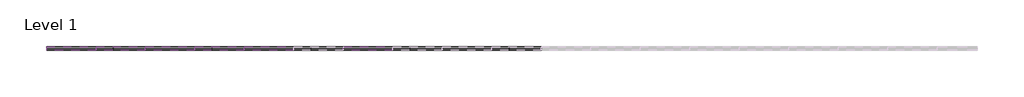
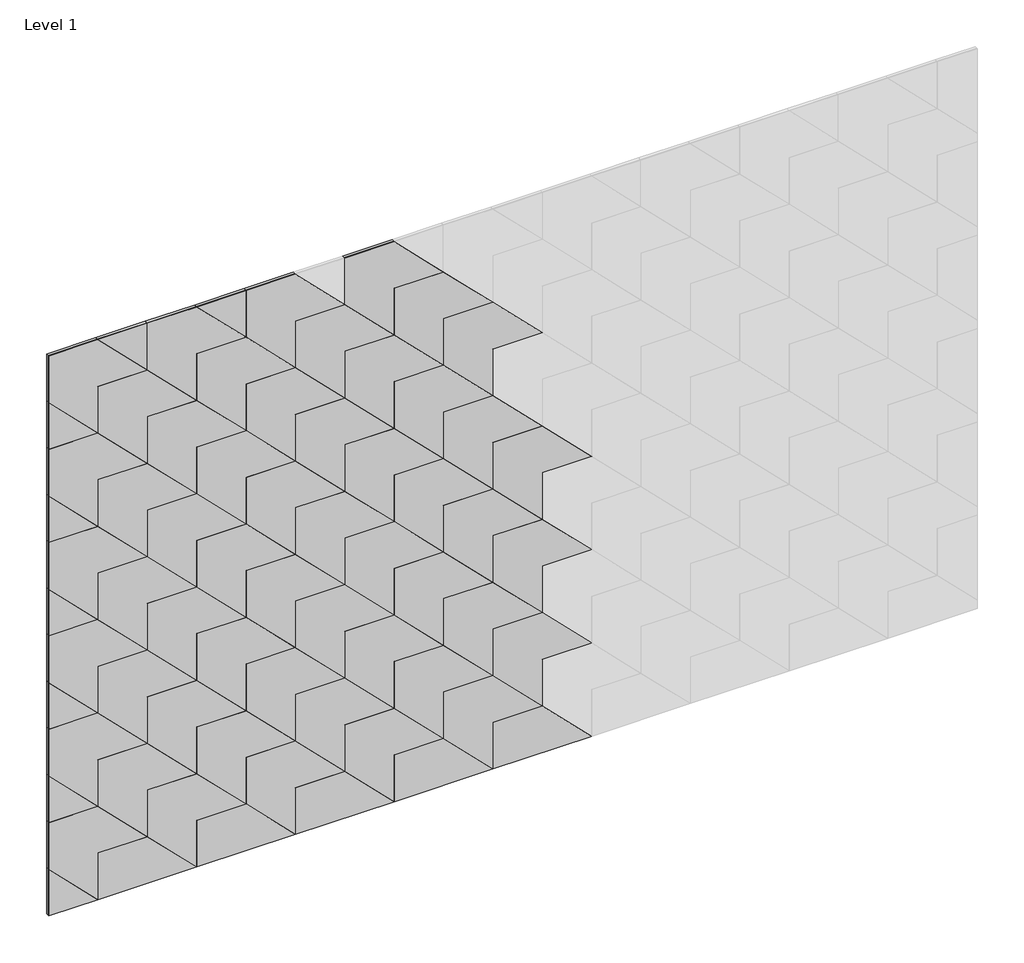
# One storey, part 1 of 2: 65 proxies.
"""IFC4 building model written with IfcOpenShell, lengths in millimetres."""

from ifc_helpers import new_model, si_unit, origin, place, context, project, spatial, transform, mapped, element, save
from components import dart_block_31c125ed, dart_block_a07508b9, dart_block_6d664180, dart_block_5e9ce8aa

model = new_model("IFC4")

# Units and contexts
model_context = context("Model", 3, world=origin())
ifc_project = project(units=[si_unit("LENGTHUNIT", "METRE", prefix="MILLI")], contexts=[model_context])

# Site, building, storey
site = spatial("IfcSite", under=ifc_project)
building = spatial("IfcBuilding", under=site)
storey = spatial("IfcBuildingStorey", under=building, Name="Level 1", Elevation=0.0)

# Proxies
placement = place(None, origin())
dart_block_shape = dart_block_31c125ed(model_context)
element("IfcBuildingElementProxy", 1, Name="FilzFelt_Dart_Block : Dart Block", ObjectType="FilzFelt_Dart_Block : Dart Block", at=placement, inside=storey, context=model_context, shape_type="MappedRepresentation", body=[
    mapped(dart_block_shape, transform((5361.2916002, -10315.1339335, 2565.2961582), x_axis=(0.7071067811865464, 0.0, 0.7071067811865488), y_axis=(-0.7071067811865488, 0.0, 0.7071067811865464), z_axis=(0.0, -1.0, 0.0))),
])
element("IfcBuildingElementProxy", 2, Name="FilzFelt_Dart_Block : Dart Block", ObjectType="FilzFelt_Dart_Block : Dart Block", at=placement, inside=storey, context=model_context, shape_type="MappedRepresentation", body=[
    mapped(dart_block_shape, transform((5720.5018451, -10315.1339335, 2565.2961582), x_axis=(0.7071067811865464, 0.0, 0.7071067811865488), y_axis=(-0.7071067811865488, 0.0, 0.7071067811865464), z_axis=(0.0, -1.0, 0.0))),
])
element("IfcBuildingElementProxy", 3, Name="FilzFelt_Dart_Block : Dart Block", ObjectType="FilzFelt_Dart_Block : Dart Block", at=placement, inside=storey, context=model_context, shape_type="MappedRepresentation", body=[
    mapped(dart_block_shape, transform((5361.2916002, -10315.1339335, 2206.0859133), x_axis=(0.7071067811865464, 0.0, 0.7071067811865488), y_axis=(-0.7071067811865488, 0.0, 0.7071067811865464), z_axis=(0.0, -1.0, 0.0))),
])
element("IfcBuildingElementProxy", 4, Name="FilzFelt_Dart_Block : Dart Block", ObjectType="FilzFelt_Dart_Block : Dart Block", at=placement, inside=storey, context=model_context, shape_type="MappedRepresentation", body=[
    mapped(dart_block_shape, transform((5720.5018451, -10315.1339335, 2206.0859133), x_axis=(0.7071067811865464, 0.0, 0.7071067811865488), y_axis=(-0.7071067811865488, 0.0, 0.7071067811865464), z_axis=(0.0, -1.0, 0.0))),
])
element("IfcBuildingElementProxy", 5, Name="FilzFelt_Dart_Block : Dart Block", ObjectType="FilzFelt_Dart_Block : Dart Block", at=placement, inside=storey, context=model_context, shape_type="MappedRepresentation", body=[
    mapped(dart_block_shape, transform((6079.7120899, -10315.1339335, 1846.8756685), x_axis=(0.7071067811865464, 0.0, 0.7071067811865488), y_axis=(-0.7071067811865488, 0.0, 0.7071067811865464), z_axis=(0.0, -1.0, 0.0))),
])
element("IfcBuildingElementProxy", 6, Name="FilzFelt_Dart_Block : Dart Block", ObjectType="FilzFelt_Dart_Block : Dart Block", at=placement, inside=storey, context=model_context, shape_type="MappedRepresentation", body=[
    mapped(dart_block_shape, transform((6438.9223347, -10315.1339335, 1487.6654237), x_axis=(0.7071067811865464, 0.0, 0.7071067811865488), y_axis=(-0.7071067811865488, 0.0, 0.7071067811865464), z_axis=(0.0, -1.0, 0.0))),
])
element("IfcBuildingElementProxy", 7, Name="FilzFelt_Dart_Block : Dart Block", ObjectType="FilzFelt_Dart_Block : Dart Block", at=placement, inside=storey, context=model_context, shape_type="MappedRepresentation", body=[
    mapped(dart_block_shape, transform((6798.1325796, -10315.1339335, 1128.4551788), x_axis=(0.7071067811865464, 0.0, 0.7071067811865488), y_axis=(-0.7071067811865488, 0.0, 0.7071067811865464), z_axis=(0.0, -1.0, 0.0))),
])
element("IfcBuildingElementProxy", 8, Name="FilzFelt_Dart_Block : Dart Block", ObjectType="FilzFelt_Dart_Block : Dart Block", at=placement, inside=storey, context=model_context, shape_type="MappedRepresentation", body=[
    mapped(dart_block_shape, transform((5720.5018451, -10315.1339335, 1846.8756685), x_axis=(0.7071067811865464, 0.0, 0.7071067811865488), y_axis=(-0.7071067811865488, 0.0, 0.7071067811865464), z_axis=(0.0, -1.0, 0.0))),
])
element("IfcBuildingElementProxy", 9, Name="FilzFelt_Dart_Block : Dart Block", ObjectType="FilzFelt_Dart_Block : Dart Block", at=placement, inside=storey, context=model_context, shape_type="MappedRepresentation", body=[
    mapped(dart_block_shape, transform((6079.7120899, -10315.1339335, 1487.6654237), x_axis=(0.7071067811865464, 0.0, 0.7071067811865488), y_axis=(-0.7071067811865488, 0.0, 0.7071067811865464), z_axis=(0.0, -1.0, 0.0))),
])
element("IfcBuildingElementProxy", 10, Name="FilzFelt_Dart_Block : Dart Block", ObjectType="FilzFelt_Dart_Block : Dart Block", at=placement, inside=storey, context=model_context, shape_type="MappedRepresentation", body=[
    mapped(dart_block_shape, transform((6438.9223347, -10315.1339335, 1128.4551788), x_axis=(0.7071067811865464, 0.0, 0.7071067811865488), y_axis=(-0.7071067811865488, 0.0, 0.7071067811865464), z_axis=(0.0, -1.0, 0.0))),
])
element("IfcBuildingElementProxy", 11, Name="FilzFelt_Dart_Block : Dart Block", ObjectType="FilzFelt_Dart_Block : Dart Block", at=placement, inside=storey, context=model_context, shape_type="MappedRepresentation", body=[
    mapped(dart_block_shape, transform((6798.1325796, -10315.1339335, 769.244934), x_axis=(0.7071067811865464, 0.0, 0.7071067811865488), y_axis=(-0.7071067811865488, 0.0, 0.7071067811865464), z_axis=(0.0, -1.0, 0.0))),
])
element("IfcBuildingElementProxy", 12, Name="FilzFelt_Dart_Block : Dart Block", ObjectType="FilzFelt_Dart_Block : Dart Block", at=placement, inside=storey, context=model_context, shape_type="MappedRepresentation", body=[
    mapped(dart_block_shape, transform((6079.7120899, -10315.1339335, 2206.0859133), x_axis=(0.7071067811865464, 0.0, 0.7071067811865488), y_axis=(-0.7071067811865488, 0.0, 0.7071067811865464), z_axis=(0.0, -1.0, 0.0))),
])
element("IfcBuildingElementProxy", 13, Name="FilzFelt_Dart_Block : Dart Block", ObjectType="FilzFelt_Dart_Block : Dart Block", at=placement, inside=storey, context=model_context, shape_type="MappedRepresentation", body=[
    mapped(dart_block_shape, transform((6438.9223347, -10315.1339335, 1846.8756685), x_axis=(0.7071067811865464, 0.0, 0.7071067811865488), y_axis=(-0.7071067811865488, 0.0, 0.7071067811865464), z_axis=(0.0, -1.0, 0.0))),
])
element("IfcBuildingElementProxy", 14, Name="FilzFelt_Dart_Block : Dart Block", ObjectType="FilzFelt_Dart_Block : Dart Block", at=placement, inside=storey, context=model_context, shape_type="MappedRepresentation", body=[
    mapped(dart_block_shape, transform((6798.1325796, -10315.1339335, 1487.6654237), x_axis=(0.7071067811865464, 0.0, 0.7071067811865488), y_axis=(-0.7071067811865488, 0.0, 0.7071067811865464), z_axis=(0.0, -1.0, 0.0))),
])
element("IfcBuildingElementProxy", 15, Name="FilzFelt_Dart_Block : Dart Block", ObjectType="FilzFelt_Dart_Block : Dart Block", at=placement, inside=storey, context=model_context, shape_type="MappedRepresentation", body=[
    mapped(dart_block_shape, transform((5361.2916002, -10315.1339335, 1846.8756685), x_axis=(0.7071067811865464, 0.0, 0.7071067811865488), y_axis=(-0.7071067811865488, 0.0, 0.7071067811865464), z_axis=(0.0, -1.0, 0.0))),
])
element("IfcBuildingElementProxy", 16, Name="FilzFelt_Dart_Block : Dart Block", ObjectType="FilzFelt_Dart_Block : Dart Block", at=placement, inside=storey, context=model_context, shape_type="MappedRepresentation", body=[
    mapped(dart_block_shape, transform((5720.5018451, -10315.1339335, 1487.6654237), x_axis=(0.7071067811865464, 0.0, 0.7071067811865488), y_axis=(-0.7071067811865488, 0.0, 0.7071067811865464), z_axis=(0.0, -1.0, 0.0))),
])
element("IfcBuildingElementProxy", 17, Name="FilzFelt_Dart_Block : Dart Block", ObjectType="FilzFelt_Dart_Block : Dart Block", at=placement, inside=storey, context=model_context, shape_type="MappedRepresentation", body=[
    mapped(dart_block_shape, transform((6079.7120899, -10315.1339335, 1128.4551788), x_axis=(0.7071067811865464, 0.0, 0.7071067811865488), y_axis=(-0.7071067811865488, 0.0, 0.7071067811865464), z_axis=(0.0, -1.0, 0.0))),
])
element("IfcBuildingElementProxy", 18, Name="FilzFelt_Dart_Block : Dart Block", ObjectType="FilzFelt_Dart_Block : Dart Block", at=placement, inside=storey, context=model_context, shape_type="MappedRepresentation", body=[
    mapped(dart_block_shape, transform((6438.9223347, -10315.1339335, 769.244934), x_axis=(0.7071067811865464, 0.0, 0.7071067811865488), y_axis=(-0.7071067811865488, 0.0, 0.7071067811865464), z_axis=(0.0, -1.0, 0.0))),
])
element("IfcBuildingElementProxy", 19, Name="FilzFelt_Dart_Block : Dart Block", ObjectType="FilzFelt_Dart_Block : Dart Block", at=placement, inside=storey, context=model_context, shape_type="MappedRepresentation", body=[
    mapped(dart_block_shape, transform((5361.2916002, -10315.1339335, 1487.6654237), x_axis=(0.7071067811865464, 0.0, 0.7071067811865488), y_axis=(-0.7071067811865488, 0.0, 0.7071067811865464), z_axis=(0.0, -1.0, 0.0))),
])
element("IfcBuildingElementProxy", 20, Name="FilzFelt_Dart_Block : Dart Block", ObjectType="FilzFelt_Dart_Block : Dart Block", at=placement, inside=storey, context=model_context, shape_type="MappedRepresentation", body=[
    mapped(dart_block_shape, transform((5720.5018451, -10315.1339335, 1128.4551788), x_axis=(0.7071067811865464, 0.0, 0.7071067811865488), y_axis=(-0.7071067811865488, 0.0, 0.7071067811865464), z_axis=(0.0, -1.0, 0.0))),
])
element("IfcBuildingElementProxy", 21, Name="FilzFelt_Dart_Block : Dart Block", ObjectType="FilzFelt_Dart_Block : Dart Block", at=placement, inside=storey, context=model_context, shape_type="MappedRepresentation", body=[
    mapped(dart_block_shape, transform((6079.7120899, -10315.1339335, 769.244934), x_axis=(0.7071067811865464, 0.0, 0.7071067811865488), y_axis=(-0.7071067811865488, 0.0, 0.7071067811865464), z_axis=(0.0, -1.0, 0.0))),
])
element("IfcBuildingElementProxy", 22, Name="FilzFelt_Dart_Block : Dart Block", ObjectType="FilzFelt_Dart_Block : Dart Block", at=placement, inside=storey, context=model_context, shape_type="MappedRepresentation", body=[
    mapped(dart_block_shape, transform((5361.2916002, -10315.1339335, 1128.4551788), x_axis=(0.7071067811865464, 0.0, 0.7071067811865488), y_axis=(-0.7071067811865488, 0.0, 0.7071067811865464), z_axis=(0.0, -1.0, 0.0))),
])
element("IfcBuildingElementProxy", 23, Name="FilzFelt_Dart_Block : Dart Block", ObjectType="FilzFelt_Dart_Block : Dart Block", at=placement, inside=storey, context=model_context, shape_type="MappedRepresentation", body=[
    mapped(dart_block_shape, transform((5720.5018451, -10315.1339335, 769.244934), x_axis=(0.7071067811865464, 0.0, 0.7071067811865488), y_axis=(-0.7071067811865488, 0.0, 0.7071067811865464), z_axis=(0.0, -1.0, 0.0))),
])
element("IfcBuildingElementProxy", 24, Name="FilzFelt_Dart_Block : Dart Block", ObjectType="FilzFelt_Dart_Block : Dart Block", at=placement, inside=storey, context=model_context, shape_type="MappedRepresentation", body=[
    mapped(dart_block_shape, transform((5361.2916002, -10315.1339335, 769.244934), x_axis=(0.7071067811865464, 0.0, 0.7071067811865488), y_axis=(-0.7071067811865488, 0.0, 0.7071067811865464), z_axis=(0.0, -1.0, 0.0))),
])
element("IfcBuildingElementProxy", 25, Name="FilzFelt_Dart_Block : Dart Block", ObjectType="FilzFelt_Dart_Block : Dart Block", at=placement, inside=storey, context=model_context, shape_type="MappedRepresentation", body=[
    mapped(dart_block_shape, transform((6079.7120899, -10315.1339335, 2565.2961582), x_axis=(0.7071067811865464, 0.0, 0.7071067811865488), y_axis=(-0.7071067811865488, 0.0, 0.7071067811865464), z_axis=(0.0, -1.0, 0.0))),
])
element("IfcBuildingElementProxy", 26, Name="FilzFelt_Dart_Block : Dart Block", ObjectType="FilzFelt_Dart_Block : Dart Block", at=placement, inside=storey, context=model_context, shape_type="MappedRepresentation", body=[
    mapped(dart_block_shape, transform((6438.9223347, -10315.1339335, 2206.0859133), x_axis=(0.7071067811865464, 0.0, 0.7071067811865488), y_axis=(-0.7071067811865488, 0.0, 0.7071067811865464), z_axis=(0.0, -1.0, 0.0))),
])
element("IfcBuildingElementProxy", 27, Name="FilzFelt_Dart_Block : Dart Block", ObjectType="FilzFelt_Dart_Block : Dart Block", at=placement, inside=storey, context=model_context, shape_type="MappedRepresentation", body=[
    mapped(dart_block_shape, transform((6798.1325796, -10315.1339335, 1846.8756685), x_axis=(0.7071067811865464, 0.0, 0.7071067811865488), y_axis=(-0.7071067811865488, 0.0, 0.7071067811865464), z_axis=(0.0, -1.0, 0.0))),
])
element("IfcBuildingElementProxy", 28, Name="FilzFelt_Dart_Block : Dart Block", ObjectType="FilzFelt_Dart_Block : Dart Block", at=placement, inside=storey, context=model_context, shape_type="MappedRepresentation", body=[
    mapped(dart_block_shape, transform((6438.9223347, -10315.1339335, 2565.2961582), x_axis=(0.7071067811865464, 0.0, 0.7071067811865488), y_axis=(-0.7071067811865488, 0.0, 0.7071067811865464), z_axis=(0.0, -1.0, 0.0))),
])
element("IfcBuildingElementProxy", 29, Name="FilzFelt_Dart_Block : Dart Block", ObjectType="FilzFelt_Dart_Block : Dart Block", at=placement, inside=storey, context=model_context, shape_type="MappedRepresentation", body=[
    mapped(dart_block_shape, transform((6798.1325796, -10315.1339335, 2206.0859133), x_axis=(0.7071067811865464, 0.0, 0.7071067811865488), y_axis=(-0.7071067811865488, 0.0, 0.7071067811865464), z_axis=(0.0, -1.0, 0.0))),
])
element("IfcBuildingElementProxy", 30, Name="FilzFelt_Dart_Block : Dart Block", ObjectType="FilzFelt_Dart_Block : Dart Block", at=placement, inside=storey, context=model_context, shape_type="MappedRepresentation", body=[
    mapped(dart_block_shape, transform((5540.8967226, -10315.1339335, 2385.6910358), x_axis=(0.7071067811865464, 0.0, 0.7071067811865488), y_axis=(-0.7071067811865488, 0.0, 0.7071067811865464), z_axis=(0.0, -1.0, 0.0))),
])
element("IfcBuildingElementProxy", 31, Name="FilzFelt_Dart_Block : Dart Block", ObjectType="FilzFelt_Dart_Block : Dart Block", at=placement, inside=storey, context=model_context, shape_type="MappedRepresentation", body=[
    mapped(dart_block_shape, transform((5900.1069675, -10315.1339335, 2026.4807909), x_axis=(0.7071067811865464, 0.0, 0.7071067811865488), y_axis=(-0.7071067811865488, 0.0, 0.7071067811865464), z_axis=(0.0, -1.0, 0.0))),
])
element("IfcBuildingElementProxy", 32, Name="FilzFelt_Dart_Block : Dart Block", ObjectType="FilzFelt_Dart_Block : Dart Block", at=placement, inside=storey, context=model_context, shape_type="MappedRepresentation", body=[
    mapped(dart_block_shape, transform((6259.3172123, -10315.1339335, 1667.2705461), x_axis=(0.7071067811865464, 0.0, 0.7071067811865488), y_axis=(-0.7071067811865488, 0.0, 0.7071067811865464), z_axis=(0.0, -1.0, 0.0))),
])
element("IfcBuildingElementProxy", 33, Name="FilzFelt_Dart_Block : Dart Block", ObjectType="FilzFelt_Dart_Block : Dart Block", at=placement, inside=storey, context=model_context, shape_type="MappedRepresentation", body=[
    mapped(dart_block_shape, transform((6618.5274572, -10315.1339335, 1308.0603012), x_axis=(0.7071067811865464, 0.0, 0.7071067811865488), y_axis=(-0.7071067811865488, 0.0, 0.7071067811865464), z_axis=(0.0, -1.0, 0.0))),
])
element("IfcBuildingElementProxy", 34, Name="FilzFelt_Dart_Block : Dart Block", ObjectType="FilzFelt_Dart_Block : Dart Block", at=placement, inside=storey, context=model_context, shape_type="MappedRepresentation", body=[
    mapped(dart_block_shape, transform((6977.737702, -10315.1339335, 948.8500564), x_axis=(0.7071067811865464, 0.0, 0.7071067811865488), y_axis=(-0.7071067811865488, 0.0, 0.7071067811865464), z_axis=(0.0, -1.0, 0.0))),
])
element("IfcBuildingElementProxy", 35, Name="FilzFelt_Dart_Block : Dart Block", ObjectType="FilzFelt_Dart_Block : Dart Block", at=placement, inside=storey, context=model_context, shape_type="MappedRepresentation", body=[
    mapped(dart_block_shape, transform((5540.8967226, -10315.1339335, 2026.4807909), x_axis=(0.7071067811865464, 0.0, 0.7071067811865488), y_axis=(-0.7071067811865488, 0.0, 0.7071067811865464), z_axis=(0.0, -1.0, 0.0))),
])
element("IfcBuildingElementProxy", 36, Name="FilzFelt_Dart_Block : Dart Block", ObjectType="FilzFelt_Dart_Block : Dart Block", at=placement, inside=storey, context=model_context, shape_type="MappedRepresentation", body=[
    mapped(dart_block_shape, transform((5900.1069675, -10315.1339335, 2385.6910358), x_axis=(0.7071067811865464, 0.0, 0.7071067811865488), y_axis=(-0.7071067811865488, 0.0, 0.7071067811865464), z_axis=(0.0, -1.0, 0.0))),
])
element("IfcBuildingElementProxy", 37, Name="FilzFelt_Dart_Block : Dart Block", ObjectType="FilzFelt_Dart_Block : Dart Block", at=placement, inside=storey, context=model_context, shape_type="MappedRepresentation", body=[
    mapped(dart_block_shape, transform((5900.1069675, -10315.1339335, 1667.2705461), x_axis=(0.7071067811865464, 0.0, 0.7071067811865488), y_axis=(-0.7071067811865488, 0.0, 0.7071067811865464), z_axis=(0.0, -1.0, 0.0))),
])
element("IfcBuildingElementProxy", 38, Name="FilzFelt_Dart_Block : Dart Block", ObjectType="FilzFelt_Dart_Block : Dart Block", at=placement, inside=storey, context=model_context, shape_type="MappedRepresentation", body=[
    mapped(dart_block_shape, transform((6259.3172123, -10315.1339335, 1308.0603012), x_axis=(0.7071067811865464, 0.0, 0.7071067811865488), y_axis=(-0.7071067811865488, 0.0, 0.7071067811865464), z_axis=(0.0, -1.0, 0.0))),
])
element("IfcBuildingElementProxy", 39, Name="FilzFelt_Dart_Block : Dart Block", ObjectType="FilzFelt_Dart_Block : Dart Block", at=placement, inside=storey, context=model_context, shape_type="MappedRepresentation", body=[
    mapped(dart_block_shape, transform((6618.5274572, -10315.1339335, 948.8500564), x_axis=(0.7071067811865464, 0.0, 0.7071067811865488), y_axis=(-0.7071067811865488, 0.0, 0.7071067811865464), z_axis=(0.0, -1.0, 0.0))),
])
element("IfcBuildingElementProxy", 40, Name="FilzFelt_Dart_Block : Dart Block", ObjectType="FilzFelt_Dart_Block : Dart Block", at=placement, inside=storey, context=model_context, shape_type="MappedRepresentation", body=[
    mapped(dart_block_shape, transform((6259.3172123, -10315.1339335, 2026.4807909), x_axis=(0.7071067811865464, 0.0, 0.7071067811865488), y_axis=(-0.7071067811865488, 0.0, 0.7071067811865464), z_axis=(0.0, -1.0, 0.0))),
])
element("IfcBuildingElementProxy", 41, Name="FilzFelt_Dart_Block : Dart Block", ObjectType="FilzFelt_Dart_Block : Dart Block", at=placement, inside=storey, context=model_context, shape_type="MappedRepresentation", body=[
    mapped(dart_block_shape, transform((6618.5274572, -10315.1339335, 1667.2705461), x_axis=(0.7071067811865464, 0.0, 0.7071067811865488), y_axis=(-0.7071067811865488, 0.0, 0.7071067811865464), z_axis=(0.0, -1.0, 0.0))),
])
element("IfcBuildingElementProxy", 42, Name="FilzFelt_Dart_Block : Dart Block", ObjectType="FilzFelt_Dart_Block : Dart Block", at=placement, inside=storey, context=model_context, shape_type="MappedRepresentation", body=[
    mapped(dart_block_shape, transform((6977.737702, -10315.1339335, 1308.0603012), x_axis=(0.7071067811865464, 0.0, 0.7071067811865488), y_axis=(-0.7071067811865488, 0.0, 0.7071067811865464), z_axis=(0.0, -1.0, 0.0))),
])
element("IfcBuildingElementProxy", 43, Name="FilzFelt_Dart_Block : Dart Block", ObjectType="FilzFelt_Dart_Block : Dart Block", at=placement, inside=storey, context=model_context, shape_type="MappedRepresentation", body=[
    mapped(dart_block_shape, transform((5540.8967226, -10315.1339335, 1667.2705461), x_axis=(0.7071067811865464, 0.0, 0.7071067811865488), y_axis=(-0.7071067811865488, 0.0, 0.7071067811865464), z_axis=(0.0, -1.0, 0.0))),
])
element("IfcBuildingElementProxy", 44, Name="FilzFelt_Dart_Block : Dart Block", ObjectType="FilzFelt_Dart_Block : Dart Block", at=placement, inside=storey, context=model_context, shape_type="MappedRepresentation", body=[
    mapped(dart_block_shape, transform((5900.1069675, -10315.1339335, 1308.0603012), x_axis=(0.7071067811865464, 0.0, 0.7071067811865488), y_axis=(-0.7071067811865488, 0.0, 0.7071067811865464), z_axis=(0.0, -1.0, 0.0))),
])
element("IfcBuildingElementProxy", 45, Name="FilzFelt_Dart_Block : Dart Block", ObjectType="FilzFelt_Dart_Block : Dart Block", at=placement, inside=storey, context=model_context, shape_type="MappedRepresentation", body=[
    mapped(dart_block_shape, transform((6259.3172123, -10315.1339335, 948.8500564), x_axis=(0.7071067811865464, 0.0, 0.7071067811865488), y_axis=(-0.7071067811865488, 0.0, 0.7071067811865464), z_axis=(0.0, -1.0, 0.0))),
])
element("IfcBuildingElementProxy", 46, Name="FilzFelt_Dart_Block : Dart Block", ObjectType="FilzFelt_Dart_Block : Dart Block", at=placement, inside=storey, context=model_context, shape_type="MappedRepresentation", body=[
    mapped(dart_block_shape, transform((5540.8967226, -10315.1339335, 1308.0603012), x_axis=(0.7071067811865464, 0.0, 0.7071067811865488), y_axis=(-0.7071067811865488, 0.0, 0.7071067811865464), z_axis=(0.0, -1.0, 0.0))),
])
element("IfcBuildingElementProxy", 47, Name="FilzFelt_Dart_Block : Dart Block", ObjectType="FilzFelt_Dart_Block : Dart Block", at=placement, inside=storey, context=model_context, shape_type="MappedRepresentation", body=[
    mapped(dart_block_shape, transform((5900.1069675, -10315.1339335, 948.8500564), x_axis=(0.7071067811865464, 0.0, 0.7071067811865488), y_axis=(-0.7071067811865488, 0.0, 0.7071067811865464), z_axis=(0.0, -1.0, 0.0))),
])
element("IfcBuildingElementProxy", 48, Name="FilzFelt_Dart_Block : Dart Block", ObjectType="FilzFelt_Dart_Block : Dart Block", at=placement, inside=storey, context=model_context, shape_type="MappedRepresentation", body=[
    mapped(dart_block_shape, transform((5540.8967226, -10315.1339335, 948.8500564), x_axis=(0.7071067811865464, 0.0, 0.7071067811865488), y_axis=(-0.7071067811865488, 0.0, 0.7071067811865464), z_axis=(0.0, -1.0, 0.0))),
])
element("IfcBuildingElementProxy", 49, Name="FilzFelt_Dart_Block : Dart Block", ObjectType="FilzFelt_Dart_Block : Dart Block", at=placement, inside=storey, context=model_context, shape_type="MappedRepresentation", body=[
    mapped(dart_block_shape, transform((6259.3172123, -10315.1339335, 2385.6910358), x_axis=(0.7071067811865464, 0.0, 0.7071067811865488), y_axis=(-0.7071067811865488, 0.0, 0.7071067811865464), z_axis=(0.0, -1.0, 0.0))),
])
element("IfcBuildingElementProxy", 50, Name="FilzFelt_Dart_Block : Dart Block", ObjectType="FilzFelt_Dart_Block : Dart Block", at=placement, inside=storey, context=model_context, shape_type="MappedRepresentation", body=[
    mapped(dart_block_shape, transform((6618.5274572, -10315.1339335, 2026.4807909), x_axis=(0.7071067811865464, 0.0, 0.7071067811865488), y_axis=(-0.7071067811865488, 0.0, 0.7071067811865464), z_axis=(0.0, -1.0, 0.0))),
])
element("IfcBuildingElementProxy", 51, Name="FilzFelt_Dart_Block : Dart Block", ObjectType="FilzFelt_Dart_Block : Dart Block", at=placement, inside=storey, context=model_context, shape_type="MappedRepresentation", body=[
    mapped(dart_block_shape, transform((6977.737702, -10315.1339335, 1667.2705461), x_axis=(0.7071067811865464, 0.0, 0.7071067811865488), y_axis=(-0.7071067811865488, 0.0, 0.7071067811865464), z_axis=(0.0, -1.0, 0.0))),
])
element("IfcBuildingElementProxy", 52, Name="FilzFelt_Dart_Block : Dart Block", ObjectType="FilzFelt_Dart_Block : Dart Block", at=placement, inside=storey, context=model_context, shape_type="MappedRepresentation", body=[
    mapped(dart_block_shape, transform((6618.5274572, -10315.1339335, 2385.6910358), x_axis=(0.7071067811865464, 0.0, 0.7071067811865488), y_axis=(-0.7071067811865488, 0.0, 0.7071067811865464), z_axis=(0.0, -1.0, 0.0))),
])
dart_block_2_shape = dart_block_a07508b9(model_context)
element("IfcBuildingElementProxy", 53, Name="FilzFelt_Dart_Block : Dart Block", ObjectType="FilzFelt_Dart_Block : Dart Block", at=placement, inside=storey, context=model_context, shape_type="MappedRepresentation", body=[
    mapped(dart_block_2_shape, transform((6977.737702, -10315.1339335, 589.6398115), x_axis=(0.7071067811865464, 0.0, 0.7071067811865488), y_axis=(-0.7071067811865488, 0.0, 0.7071067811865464), z_axis=(0.0, -1.0, 0.0))),
])
element("IfcBuildingElementProxy", 54, Name="FilzFelt_Dart_Block : Dart Block", ObjectType="FilzFelt_Dart_Block : Dart Block", at=placement, inside=storey, context=model_context, shape_type="MappedRepresentation", body=[
    mapped(dart_block_2_shape, transform((6618.5274572, -10315.1339335, 589.6398115), x_axis=(0.7071067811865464, 0.0, 0.7071067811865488), y_axis=(-0.7071067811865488, 0.0, 0.7071067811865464), z_axis=(0.0, -1.0, 0.0))),
])
element("IfcBuildingElementProxy", 55, Name="FilzFelt_Dart_Block : Dart Block", ObjectType="FilzFelt_Dart_Block : Dart Block", at=placement, inside=storey, context=model_context, shape_type="MappedRepresentation", body=[
    mapped(dart_block_2_shape, transform((6259.3172123, -10315.1339335, 589.6398115), x_axis=(0.7071067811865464, 0.0, 0.7071067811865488), y_axis=(-0.7071067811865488, 0.0, 0.7071067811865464), z_axis=(0.0, -1.0, 0.0))),
])
element("IfcBuildingElementProxy", 56, Name="FilzFelt_Dart_Block : Dart Block", ObjectType="FilzFelt_Dart_Block : Dart Block", at=placement, inside=storey, context=model_context, shape_type="MappedRepresentation", body=[
    mapped(dart_block_2_shape, transform((5900.1069675, -10315.1339335, 589.6398115), x_axis=(0.7071067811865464, 0.0, 0.7071067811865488), y_axis=(-0.7071067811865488, 0.0, 0.7071067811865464), z_axis=(0.0, -1.0, 0.0))),
])
element("IfcBuildingElementProxy", 57, Name="FilzFelt_Dart_Block : Dart Block", ObjectType="FilzFelt_Dart_Block : Dart Block", at=placement, inside=storey, context=model_context, shape_type="MappedRepresentation", body=[
    mapped(dart_block_2_shape, transform((5540.8967226, -10315.1339335, 589.6398115), x_axis=(0.7071067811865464, 0.0, 0.7071067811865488), y_axis=(-0.7071067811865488, 0.0, 0.7071067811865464), z_axis=(0.0, -1.0, 0.0))),
])
dart_block_3_shape = dart_block_6d664180(model_context)
element("IfcBuildingElementProxy", 58, Name="FilzFelt_Dart_Block : Dart Block", ObjectType="FilzFelt_Dart_Block : Dart Block", at=placement, inside=storey, context=model_context, shape_type="MappedRepresentation", body=[
    mapped(dart_block_3_shape, transform((5181.6864778, -10315.1339335, 589.6398115), x_axis=(0.7071067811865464, 0.0, 0.7071067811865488), y_axis=(-0.7071067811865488, 0.0, 0.7071067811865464), z_axis=(0.0, -1.0, 0.0))),
])
element("IfcBuildingElementProxy", 59, Name="FilzFelt_Dart_Block : Dart Block", ObjectType="FilzFelt_Dart_Block : Dart Block", at=placement, inside=storey, context=model_context, shape_type="MappedRepresentation", body=[
    mapped(dart_block_3_shape, transform((5181.6864778, -10315.1339335, 948.8500564), x_axis=(0.7071067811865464, 0.0, 0.7071067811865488), y_axis=(-0.7071067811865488, 0.0, 0.7071067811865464), z_axis=(0.0, -1.0, 0.0))),
])
element("IfcBuildingElementProxy", 60, Name="FilzFelt_Dart_Block : Dart Block", ObjectType="FilzFelt_Dart_Block : Dart Block", at=placement, inside=storey, context=model_context, shape_type="MappedRepresentation", body=[
    mapped(dart_block_3_shape, transform((5181.6864778, -10315.1339335, 1308.0603012), x_axis=(0.7071067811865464, 0.0, 0.7071067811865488), y_axis=(-0.7071067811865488, 0.0, 0.7071067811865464), z_axis=(0.0, -1.0, 0.0))),
])
element("IfcBuildingElementProxy", 61, Name="FilzFelt_Dart_Block : Dart Block", ObjectType="FilzFelt_Dart_Block : Dart Block", at=placement, inside=storey, context=model_context, shape_type="MappedRepresentation", body=[
    mapped(dart_block_3_shape, transform((5181.6864778, -10315.1339335, 1667.2705461), x_axis=(0.7071067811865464, 0.0, 0.7071067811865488), y_axis=(-0.7071067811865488, 0.0, 0.7071067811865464), z_axis=(0.0, -1.0, 0.0))),
])
element("IfcBuildingElementProxy", 62, Name="FilzFelt_Dart_Block : Dart Block", ObjectType="FilzFelt_Dart_Block : Dart Block", at=placement, inside=storey, context=model_context, shape_type="MappedRepresentation", body=[
    mapped(dart_block_3_shape, transform((5181.6864778, -10315.1339335, 2026.4807909), x_axis=(0.7071067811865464, 0.0, 0.7071067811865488), y_axis=(-0.7071067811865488, 0.0, 0.7071067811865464), z_axis=(0.0, -1.0, 0.0))),
])
element("IfcBuildingElementProxy", 63, Name="FilzFelt_Dart_Block : Dart Block", ObjectType="FilzFelt_Dart_Block : Dart Block", at=placement, inside=storey, context=model_context, shape_type="MappedRepresentation", body=[
    mapped(dart_block_3_shape, transform((5181.6864778, -10315.1339335, 2385.6910358), x_axis=(0.7071067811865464, 0.0, 0.7071067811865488), y_axis=(-0.7071067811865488, 0.0, 0.7071067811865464), z_axis=(0.0, -1.0, 0.0))),
])
dart_block_4_shape = dart_block_5e9ce8aa(model_context)
element("IfcBuildingElementProxy", 64, Name="FilzFelt_Dart_Block : Dart Block", ObjectType="FilzFelt_Dart_Block : Dart Block", at=placement, inside=storey, context=model_context, shape_type="MappedRepresentation", body=[
    mapped(dart_block_4_shape, transform((5540.8967226, -10315.1339335, 2744.9012806), x_axis=(0.7071067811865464, 0.0, 0.7071067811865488), y_axis=(-0.7071067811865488, 0.0, 0.7071067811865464), z_axis=(0.0, -1.0, 0.0))),
])
element("IfcBuildingElementProxy", 65, Name="FilzFelt_Dart_Block : Dart Block", ObjectType="FilzFelt_Dart_Block : Dart Block", at=placement, inside=storey, context=model_context, shape_type="MappedRepresentation", body=[
    mapped(dart_block_4_shape, transform((5900.1069675, -10315.1339335, 2744.9012806), x_axis=(0.7071067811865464, 0.0, 0.7071067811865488), y_axis=(-0.7071067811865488, 0.0, 0.7071067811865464), z_axis=(0.0, -1.0, 0.0))),
])

save(model, "model.ifc")
